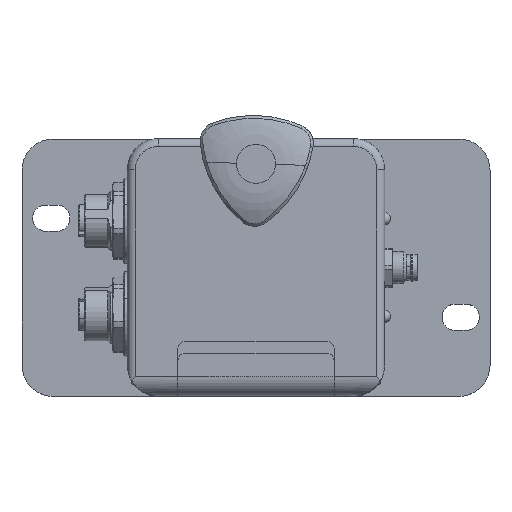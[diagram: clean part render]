
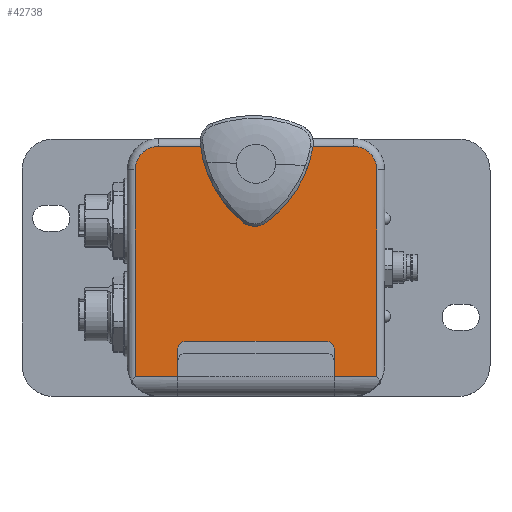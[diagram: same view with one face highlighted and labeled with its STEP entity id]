
A CAD part, top view. The second image highlights one B-rep face of the part: STEP entity #42738.
In plain terms, the highlighted planar face has unit normal (0, 0, 1) as drawn and (0, 1, 0) by its records, which use the part's own axes.
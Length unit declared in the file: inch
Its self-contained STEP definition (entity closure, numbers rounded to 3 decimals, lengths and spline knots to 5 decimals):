
#181 = EDGE_CURVE ( 'NONE', #3206, #46924, #21911, .T. ) ;
#529 = VECTOR ( 'NONE', #41287, 39.37008 ) ;
#562 = VECTOR ( 'NONE', #32323, 39.37008 ) ;
#635 = CIRCLE ( 'NONE', #46575, 0.08268 ) ;
#881 = CARTESIAN_POINT ( 'NONE',  ( 0.50787, 2.44094, -1.81496 ) ) ;
#1192 = AXIS2_PLACEMENT_3D ( 'NONE', #36652, #32746, #43706 ) ;
#1716 = LINE ( 'NONE', #23911, #42001 ) ;
#2259 = VERTEX_POINT ( 'NONE', #7253 ) ;
#2368 = VECTOR ( 'NONE', #24530, 39.37008 ) ;
#2892 = CARTESIAN_POINT ( 'NONE',  ( 0.59055, 2.44094, -1.73228 ) ) ;
#3206 = VERTEX_POINT ( 'NONE', #17723 ) ;
#4402 = CARTESIAN_POINT ( 'NONE',  ( 2.28346, 2.44094, 0. ) ) ;
#4880 = ORIENTED_EDGE ( 'NONE', *, *, #16596, .T. ) ;
#5127 = DIRECTION ( 'NONE',  ( 0., 1., 0. ) ) ;
#5291 = ORIENTED_EDGE ( 'NONE', *, *, #18801, .F. ) ;
#6047 = DIRECTION ( 'NONE',  ( 0., 1., 0. ) ) ;
#6276 = CARTESIAN_POINT ( 'NONE',  ( 1.29921, 2.44094, -0.04921 ) ) ;
#6589 = ORIENTED_EDGE ( 'NONE', *, *, #19998, .T. ) ;
#7253 = CARTESIAN_POINT ( 'NONE',  ( 2.09055, 2.44094, -1.81496 ) ) ;
#7536 = CARTESIAN_POINT ( 'NONE',  ( 0.31496, 2.44094, 0. ) ) ;
#8254 = LINE ( 'NONE', #15098, #44852 ) ;
#8446 = EDGE_CURVE ( 'NONE', #47025, #14168, #1716, .T. ) ;
#9314 = CIRCLE ( 'NONE', #36564, 0.12795 ) ;
#10514 = EDGE_CURVE ( 'NONE', #16527, #46377, #23478, .T. ) ;
#10693 = ORIENTED_EDGE ( 'NONE', *, *, #181, .T. ) ;
#10924 = DIRECTION ( 'NONE',  ( 0., 0., -1. ) ) ;
#10979 = ORIENTED_EDGE ( 'NONE', *, *, #20615, .T. ) ;
#11141 = VERTEX_POINT ( 'NONE', #25073 ) ;
#11224 = DIRECTION ( 'NONE',  ( 0., 0., -1. ) ) ;
#13317 = LINE ( 'NONE', #39618, #2368 ) ;
#13603 = DIRECTION ( 'NONE',  ( 0., 0., -1. ) ) ;
#14168 = VERTEX_POINT ( 'NONE', #2892 ) ;
#14783 = VERTEX_POINT ( 'NONE', #27674 ) ;
#14824 = VECTOR ( 'NONE', #42864, 39.37008 ) ;
#14949 = EDGE_CURVE ( 'NONE', #14783, #30538, #18275, .T. ) ;
#15098 = CARTESIAN_POINT ( 'NONE',  ( 2.28346, 2.44094, 0.23622 ) ) ;
#15250 = DIRECTION ( 'NONE',  ( 0., 0., -1. ) ) ;
#15569 = CARTESIAN_POINT ( 'NONE',  ( 1.17126, 2.44094, -0.04921 ) ) ;
#15584 = FACE_OUTER_BOUND ( 'NONE', #40598, .T. ) ;
#15656 = VERTEX_POINT ( 'NONE', #40596 ) ;
#15863 = VERTEX_POINT ( 'NONE', #881 ) ;
#16527 = VERTEX_POINT ( 'NONE', #32929 ) ;
#16570 = DIRECTION ( 'NONE',  ( -1., 0., 0. ) ) ;
#16596 = EDGE_CURVE ( 'NONE', #25451, #3206, #47979, .T. ) ;
#16906 = VERTEX_POINT ( 'NONE', #15569 ) ;
#17229 = CARTESIAN_POINT ( 'NONE',  ( 2.09055, 2.44094, -2.08661 ) ) ;
#17688 = CARTESIAN_POINT ( 'NONE',  ( 1.17126, 2.44094, 0.23622 ) ) ;
#17723 = CARTESIAN_POINT ( 'NONE',  ( 2.51969, 2.44094, 0. ) ) ;
#18275 = CIRCLE ( 'NONE', #1192, 0.12795 ) ;
#18633 = LINE ( 'NONE', #33516, #529 ) ;
#18728 = CARTESIAN_POINT ( 'NONE',  ( 2.51969, 2.44094, -1.9685 ) ) ;
#18784 = AXIS2_PLACEMENT_3D ( 'NONE', #20240, #5127, #27823 ) ;
#18801 = EDGE_CURVE ( 'NONE', #30538, #16906, #9314, .T. ) ;
#19215 = AXIS2_PLACEMENT_3D ( 'NONE', #26945, #30370, #15250 ) ;
#19656 = LINE ( 'NONE', #34531, #23352 ) ;
#19710 = LINE ( 'NONE', #28014, #14824 ) ;
#19998 = EDGE_CURVE ( 'NONE', #32607, #2259, #13317, .T. ) ;
#20240 = CARTESIAN_POINT ( 'NONE',  ( 0.31496, 2.44094, 0. ) ) ;
#20615 = EDGE_CURVE ( 'NONE', #46377, #47308, #35499, .T. ) ;
#21222 = EDGE_CURVE ( 'NONE', #15656, #11141, #19710, .T. ) ;
#21615 = VECTOR ( 'NONE', #31389, 39.37008 ) ;
#21720 = EDGE_CURVE ( 'NONE', #11141, #16527, #47900, .T. ) ;
#21911 = LINE ( 'NONE', #18728, #29883 ) ;
#22424 = PLANE ( 'NONE',  #35601 ) ;
#23352 = VECTOR ( 'NONE', #42316, 39.37008 ) ;
#23478 = CIRCLE ( 'NONE', #18784, 0.23622 ) ;
#23911 = CARTESIAN_POINT ( 'NONE',  ( 0.50787, 2.44094, -1.73228 ) ) ;
#24172 = EDGE_CURVE ( 'NONE', #46924, #32607, #46735, .T. ) ;
#24530 = DIRECTION ( 'NONE',  ( 0., 0., 1. ) ) ;
#24872 = ORIENTED_EDGE ( 'NONE', *, *, #46054, .T. ) ;
#24998 = CARTESIAN_POINT ( 'NONE',  ( 1.42717, 2.44094, 0.67913 ) ) ;
#25026 = ORIENTED_EDGE ( 'NONE', *, *, #48128, .T. ) ;
#25073 = CARTESIAN_POINT ( 'NONE',  ( 0.07874, 2.44094, -2.08661 ) ) ;
#25451 = VERTEX_POINT ( 'NONE', #40845 ) ;
#26259 = CARTESIAN_POINT ( 'NONE',  ( 0.31496, 2.44094, 0.23622 ) ) ;
#26860 = CARTESIAN_POINT ( 'NONE',  ( 2.51969, 2.44094, -2.08661 ) ) ;
#26945 = CARTESIAN_POINT ( 'NONE',  ( 0.59055, 2.44094, -1.81496 ) ) ;
#27052 = ORIENTED_EDGE ( 'NONE', *, *, #27410, .F. ) ;
#27410 = EDGE_CURVE ( 'NONE', #16906, #47308, #19656, .T. ) ;
#27674 = CARTESIAN_POINT ( 'NONE',  ( 1.42717, 2.44094, -0.04921 ) ) ;
#27823 = DIRECTION ( 'NONE',  ( 0., 0., -1. ) ) ;
#28014 = CARTESIAN_POINT ( 'NONE',  ( 0., 2.44094, -2.08661 ) ) ;
#28188 = CARTESIAN_POINT ( 'NONE',  ( 2.28346, 2.44094, 0.23622 ) ) ;
#29345 = CIRCLE ( 'NONE', #19215, 0.08268 ) ;
#29397 = DIRECTION ( 'NONE',  ( 0., 0., 1. ) ) ;
#29732 = DIRECTION ( 'NONE',  ( 0., 0., -1. ) ) ;
#29883 = VECTOR ( 'NONE', #10924, 39.37008 ) ;
#29983 = DIRECTION ( 'NONE',  ( 1., 0., 0. ) ) ;
#30370 = DIRECTION ( 'NONE',  ( 0., -1., 0. ) ) ;
#30538 = VERTEX_POINT ( 'NONE', #32026 ) ;
#31389 = DIRECTION ( 'NONE',  ( -1., 0., 0. ) ) ;
#32026 = CARTESIAN_POINT ( 'NONE',  ( 1.29921, 2.44094, -0.17717 ) ) ;
#32323 = DIRECTION ( 'NONE',  ( 0., 0., -1. ) ) ;
#32607 = VERTEX_POINT ( 'NONE', #35457 ) ;
#32701 = ORIENTED_EDGE ( 'NONE', *, *, #21720, .T. ) ;
#32746 = DIRECTION ( 'NONE',  ( 0., 1., 0. ) ) ;
#32929 = CARTESIAN_POINT ( 'NONE',  ( 0.07874, 2.44094, 0. ) ) ;
#33154 = DIRECTION ( 'NONE',  ( 0., 0., -1. ) ) ;
#33189 = AXIS2_PLACEMENT_3D ( 'NONE', #4402, #37551, #11224 ) ;
#33281 = CARTESIAN_POINT ( 'NONE',  ( 0.07874, 2.44094, 0. ) ) ;
#33333 = ORIENTED_EDGE ( 'NONE', *, *, #45226, .T. ) ;
#33401 = CARTESIAN_POINT ( 'NONE',  ( 2.00787, 2.44094, -1.81496 ) ) ;
#33516 = CARTESIAN_POINT ( 'NONE',  ( 0.50787, 2.44094, -1.73228 ) ) ;
#33886 = DIRECTION ( 'NONE',  ( 0., -1., 0. ) ) ;
#34196 = CARTESIAN_POINT ( 'NONE',  ( 1.42717, 2.44094, 0.23622 ) ) ;
#34205 = ORIENTED_EDGE ( 'NONE', *, *, #8446, .T. ) ;
#34531 = CARTESIAN_POINT ( 'NONE',  ( 1.17126, 2.44094, 0.67913 ) ) ;
#34741 = VECTOR ( 'NONE', #29397, 39.37008 ) ;
#35457 = CARTESIAN_POINT ( 'NONE',  ( 2.09055, 2.44094, -2.08661 ) ) ;
#35499 = LINE ( 'NONE', #28188, #46705 ) ;
#35574 = ORIENTED_EDGE ( 'NONE', *, *, #24172, .T. ) ;
#35601 = AXIS2_PLACEMENT_3D ( 'NONE', #7536, #37280, #29732 ) ;
#36542 = ORIENTED_EDGE ( 'NONE', *, *, #46671, .T. ) ;
#36564 = AXIS2_PLACEMENT_3D ( 'NONE', #6276, #6047, #13603 ) ;
#36652 = CARTESIAN_POINT ( 'NONE',  ( 1.29921, 2.44094, -0.04921 ) ) ;
#37280 = DIRECTION ( 'NONE',  ( 0., 1., 0. ) ) ;
#37551 = DIRECTION ( 'NONE',  ( 0., 1., 0. ) ) ;
#39491 = ORIENTED_EDGE ( 'NONE', *, *, #21222, .T. ) ;
#39618 = CARTESIAN_POINT ( 'NONE',  ( 2.09055, 2.44094, -1.73228 ) ) ;
#40596 = CARTESIAN_POINT ( 'NONE',  ( 0.50787, 2.44094, -2.08661 ) ) ;
#40598 = EDGE_LOOP ( 'NONE', ( #27052, #5291, #41669, #46262, #24872, #4880, #10693, #35574, #6589, #25026, #34205, #33333, #36542, #39491, #32701, #46631, #10979 ) ) ;
#40845 = CARTESIAN_POINT ( 'NONE',  ( 2.28346, 2.44094, 0.23622 ) ) ;
#41287 = DIRECTION ( 'NONE',  ( 0., 0., -1. ) ) ;
#41669 = ORIENTED_EDGE ( 'NONE', *, *, #14949, .F. ) ;
#42001 = VECTOR ( 'NONE', #16570, 39.37008 ) ;
#42316 = DIRECTION ( 'NONE',  ( 0., 0., 1. ) ) ;
#42570 = VERTEX_POINT ( 'NONE', #34196 ) ;
#42738 = ADVANCED_FACE ( 'NONE', ( #15584 ), #22424, .T. ) ;
#42864 = DIRECTION ( 'NONE',  ( -1., 0., 0. ) ) ;
#43706 = DIRECTION ( 'NONE',  ( 0., 0., -1. ) ) ;
#44852 = VECTOR ( 'NONE', #29983, 39.37008 ) ;
#45226 = EDGE_CURVE ( 'NONE', #14168, #15863, #29345, .T. ) ;
#46054 = EDGE_CURVE ( 'NONE', #42570, #25451, #8254, .T. ) ;
#46262 = ORIENTED_EDGE ( 'NONE', *, *, #47354, .F. ) ;
#46377 = VERTEX_POINT ( 'NONE', #26259 ) ;
#46575 = AXIS2_PLACEMENT_3D ( 'NONE', #33401, #33886, #33154 ) ;
#46631 = ORIENTED_EDGE ( 'NONE', *, *, #10514, .T. ) ;
#46671 = EDGE_CURVE ( 'NONE', #15863, #15656, #18633, .T. ) ;
#46705 = VECTOR ( 'NONE', #47651, 39.37008 ) ;
#46735 = LINE ( 'NONE', #17229, #21615 ) ;
#46924 = VERTEX_POINT ( 'NONE', #26860 ) ;
#47025 = VERTEX_POINT ( 'NONE', #47714 ) ;
#47308 = VERTEX_POINT ( 'NONE', #17688 ) ;
#47354 = EDGE_CURVE ( 'NONE', #42570, #14783, #47425, .T. ) ;
#47425 = LINE ( 'NONE', #24998, #562 ) ;
#47651 = DIRECTION ( 'NONE',  ( 1., 0., 0. ) ) ;
#47714 = CARTESIAN_POINT ( 'NONE',  ( 2.00787, 2.44094, -1.73228 ) ) ;
#47900 = LINE ( 'NONE', #33281, #34741 ) ;
#47979 = CIRCLE ( 'NONE', #33189, 0.23622 ) ;
#48128 = EDGE_CURVE ( 'NONE', #2259, #47025, #635, .T. ) ;
